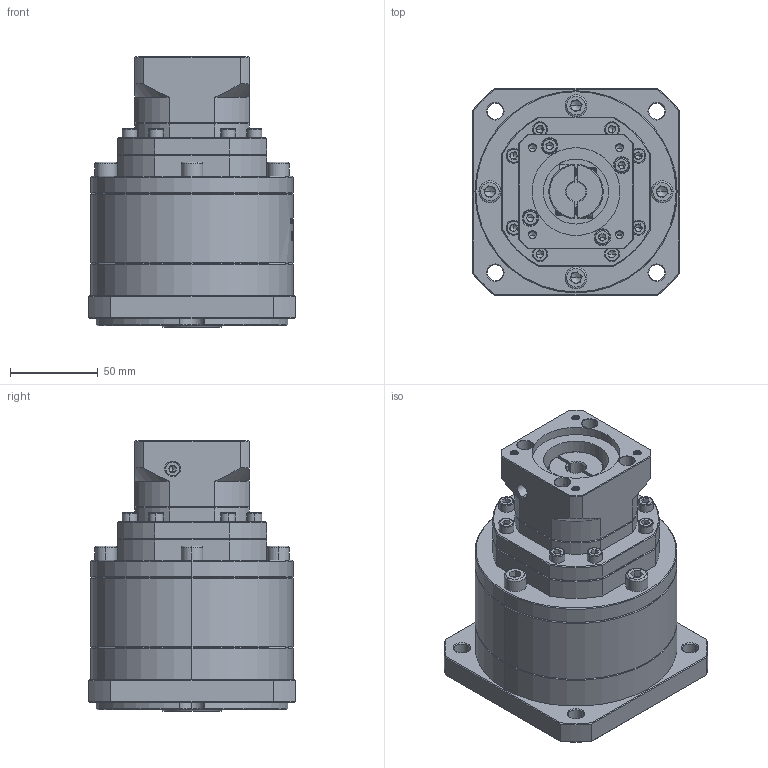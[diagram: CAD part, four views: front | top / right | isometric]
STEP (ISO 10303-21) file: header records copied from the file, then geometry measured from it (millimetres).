
FILE_DESCRIPTION (( 'STEP AP214' ), '1' );
FILE_NAME ('ZF120A-K25-L3-11-50-70-M5.step', '2023-03-07T15:56:43', ( '' ), ( 'Microsoft' ), 'SwSTEP 2.0', 'SolidWorks 2016', '' );
FILE_SCHEMA (( 'AUTOMOTIVE_DESIGN' ));
Length unit declared in the file: millimetre
Products named in the file (1): ZF120A-K25-L3-11-50-70-M5
Bounding box: 118 x 118 x 154 mm (x, y, z)
Volume: 1166173.5 mm3; surface area: 113996.5 mm2
Topology: 7 solids, 7 shells, 2027 faces, 5330 edges, 3406 vertices
Faces by surface type: plane 995, cylinder 390, bspline 328, cone 292, torus 22
Entity records: 104250 total; most frequent: CARTESIAN_POINT 35455, ORIENTED_EDGE 10556, DIRECTION 8398, EDGE_CURVE 5278, VERTEX_POINT 3406, LINE 2932, VECTOR 2932, AXIS2_PLACEMENT_3D 2733
